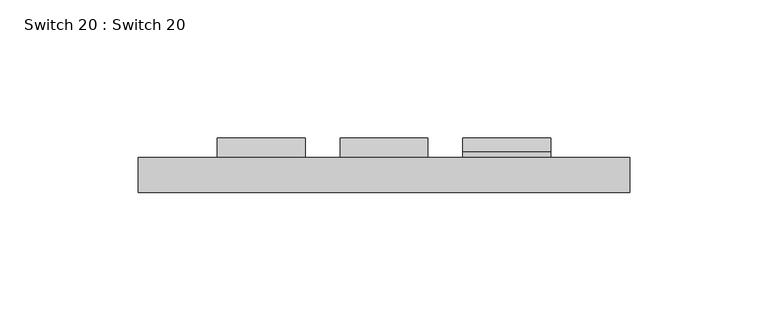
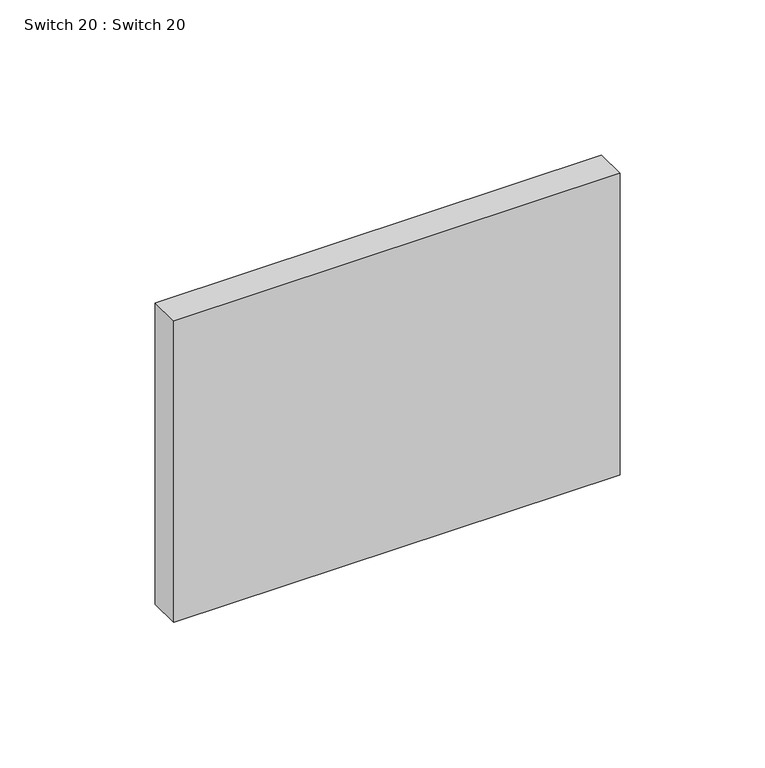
"""IFC4 building model written with IfcOpenShell, lengths in millimetres: proxy geometry, Switch 20 : Switch 20."""

from ifc_helpers import new_model, si_unit, frame, origin, origin_with_axes, place, context, project, spatial, polyline, outline, extrude, source, transform, mapped, element, save


def switch_20_switch_20_01105299(model_context):
    return source(origin(), model_context, "Body", "SweptSolid", [
        extrude(outline(polyline([(12.7, 33.3205774), (12.7, 99.8235339), (14.7268688, 99.8235339), (14.7268688, 63.0548946), (19.7295524, 34.6869839), (12.7, 33.3205774)])), frame((24.4556452, 0.0, 0.0), z_axis=(1.0, 0.0, 0.0), x_axis=(0.0, 1.0, 0.0)), (0.0, 0.0, 1.0), 31.75),
        extrude(outline(polyline([(12.7, 99.4536931), (19.716729, 98.0897792), (14.7268688, 69.7945844), (14.7268688, 32.9507366), (12.7, 32.9507366), (12.7, 99.4536931)])), frame((-19.9943548, 0.0, 0.0), z_axis=(1.0, 0.0, 0.0), x_axis=(0.0, 1.0, 0.0)), (0.0, 0.0, 1.0), 31.75),
        extrude(outline(polyline([(12.7, 99.4536931), (19.716729, 98.0897792), (14.7268688, 69.7945844), (14.7268688, 32.9507366), (12.7, 32.9507366), (12.7, 99.4536931)])), frame((-64.4443548, 0.0, 0.0), z_axis=(1.0, 0.0, 0.0), x_axis=(0.0, 1.0, 0.0)), (0.0, 0.0, 1.0), 31.75),
        extrude(outline(polyline([(-93.0193548, 12.7), (84.7806452, 12.7), (84.7806452, 0.0), (-93.0193548, 0.0), (-93.0193548, 12.7)])), origin_with_axes(), (0.0, 0.0, 1.0), 127.0),
    ])


if __name__ == "__main__":
    model = new_model("IFC4")
    model_context = context("Model", 3, world=origin())
    ifc_project = project(units=[si_unit("LENGTHUNIT", "METRE", prefix="MILLI")], contexts=[model_context])
    site = spatial("IfcSite", under=ifc_project)
    building = spatial("IfcBuilding", under=site)
    placement = place(None, origin())
    switch_20_switch_20_shape = switch_20_switch_20_01105299(model_context)
    element("IfcBuildingElementProxy", 1, Name="Switch 20 : Switch 20", ObjectType="Switch 20 : Switch 20", at=placement, inside=building, context=model_context, shape_type="MappedRepresentation", body=[
        mapped(switch_20_switch_20_shape, transform((0.0, 0.0, 0.0), x_axis=(1.0, 0.0, 0.0), y_axis=(0.0, 1.0, 0.0), z_axis=(0.0, 0.0, 1.0))),
    ])
    save(model, "model.ifc")
